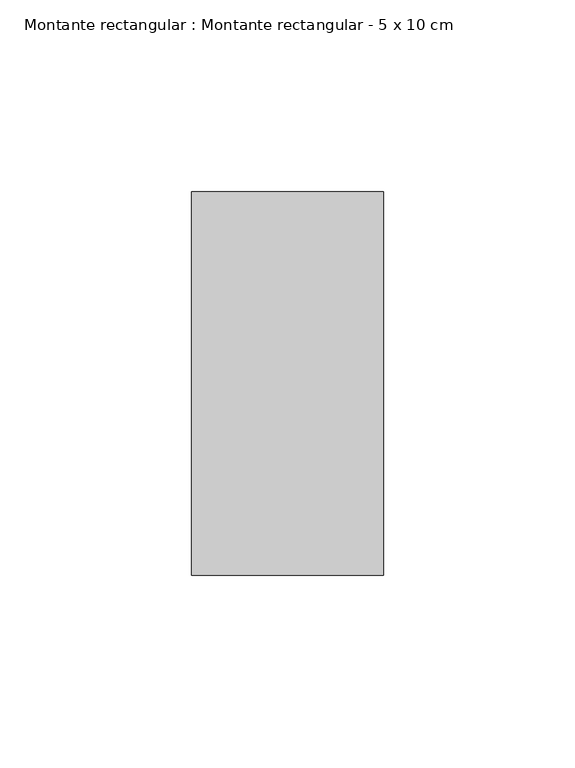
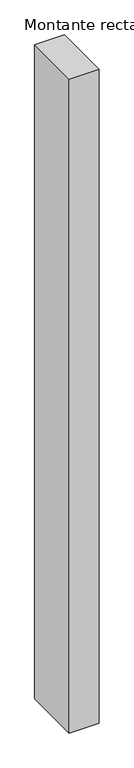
"""IFC4 building model written with IfcOpenShell, lengths in millimetres: member geometry, Montante rectangular : Montante rectangular - 5 x 10 cm."""

from ifc_helpers import new_model, si_unit, frame, origin, place, context, project, spatial, polyline, outline, extrude, source, transform, mapped, element, save


def montante_rectangular_montante_rectangular_5_x_10_cm_7f663279(model_context):
    return source(origin(), model_context, "Body", "SweptSolid", [
        extrude(outline(polyline([(25.0, 50.0), (25.0, -50.0), (-25.0, -50.0), (-25.0, 50.0), (25.0, 50.0)])), frame((0.0, 0.0, -1155.0), z_axis=(0.0, 0.0, 1.0), x_axis=(1.0, 0.0, 0.0)), (0.0, 0.0, 1.0), 1155.0),
    ])


if __name__ == "__main__":
    model = new_model("IFC4")
    model_context = context("Model", 3, world=origin())
    ifc_project = project(units=[si_unit("LENGTHUNIT", "METRE", prefix="MILLI")], contexts=[model_context])
    site = spatial("IfcSite", under=ifc_project)
    building = spatial("IfcBuilding", under=site)
    placement = place(None, origin())
    montante_rectangular_montante_rectangular_5_x_10_cm_shape = montante_rectangular_montante_rectangular_5_x_10_cm_7f663279(model_context)
    element("IfcMember", 1, ObjectType="Montante rectangular : Montante rectangular - 5 x 10 cm", at=placement, inside=building, context=model_context, shape_type="MappedRepresentation", body=[
        mapped(montante_rectangular_montante_rectangular_5_x_10_cm_shape, transform((0.0, 0.0, 0.0), x_axis=(1.0, 0.0, 0.0), y_axis=(0.0, 1.0, 0.0), z_axis=(0.0, 0.0, 1.0))),
    ])
    save(model, "model.ifc")
